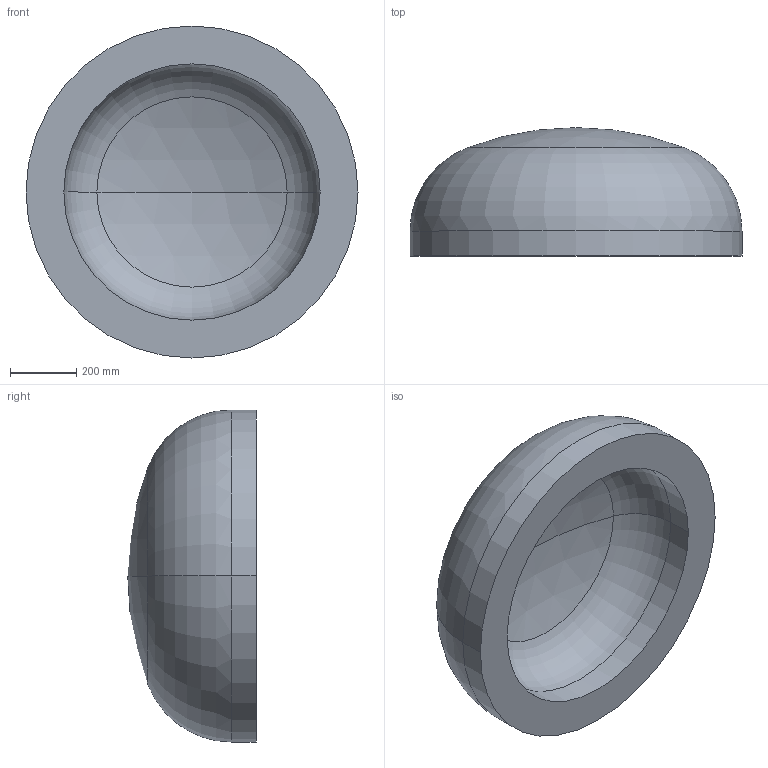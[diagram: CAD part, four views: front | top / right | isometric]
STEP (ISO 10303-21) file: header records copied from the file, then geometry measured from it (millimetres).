
FILE_DESCRIPTION (( 'STEP AP203' ), '1' );
FILE_NAME ('DIN 28013 Korbbogenform_-_Boden DIN 28013 - 1000 x 75 - I - s=114.step', '2016-07-01T08:58:05', ( '' ), ( '' ), 'SwSTEP 2.0', 'SolidWorks 2013', '' );
FILE_SCHEMA (( 'CONFIG_CONTROL_DESIGN' ));
Length unit declared in the file: millimetre
Products named in the file (1): DIN 28013 Korbbogenform_-_Boden DIN 28013 - 1000 x 75 - I - s=114
Bounding box: 1000 x 386.78 x 1000 mm (x, y, z)
Volume: 131778912.9 mm3; surface area: 2656442.6 mm2
Topology: 1 solids, 1 shells, 13 faces, 24 edges, 14 vertices
Faces by surface type: torus 4, cylinder 4, sphere 4, plane 1
Entity records: 407 total; most frequent: DIRECTION 72, CARTESIAN_POINT 52, ORIENTED_EDGE 48, AXIS2_PLACEMENT_3D 34, EDGE_CURVE 24, CIRCLE 20, VERTEX_POINT 14, EDGE_LOOP 14
